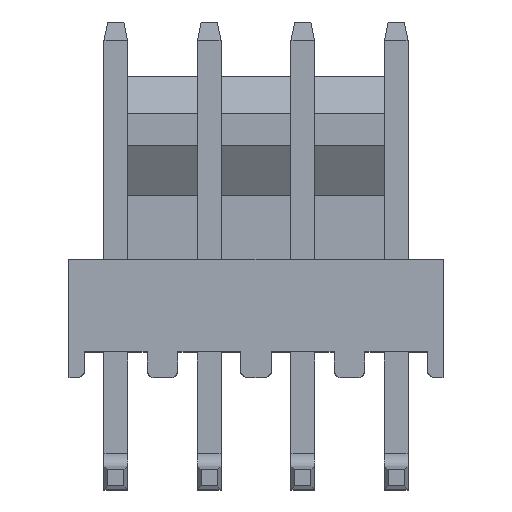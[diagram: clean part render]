
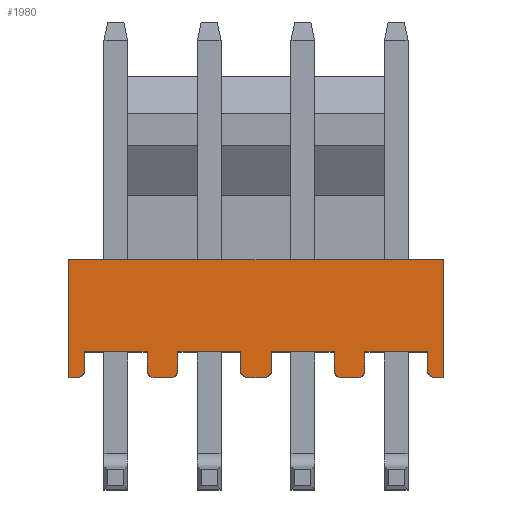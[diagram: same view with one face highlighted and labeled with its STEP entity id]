
A CAD part, top view. The second image highlights one B-rep face of the part: STEP entity #1980.
In plain terms, the highlighted planar face has unit normal (0, 0, 1).
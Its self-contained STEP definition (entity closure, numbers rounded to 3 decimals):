
#1=DIRECTION('',(0.,-1.,0.));
#2=VECTOR('',#1,3.2);
#3=CARTESIAN_POINT('',(-5.08,3.2,6.5));
#4=LINE('',#3,#2);
#269=CARTESIAN_POINT('',(2.76,0.2,6.5));
#270=DIRECTION('',(0.,0.,1.));
#271=DIRECTION('',(0.,-1.,0.));
#272=AXIS2_PLACEMENT_3D('',#269,#270,#271);
#274=CARTESIAN_POINT('',(2.32,0.2,6.5));
#275=DIRECTION('',(0.,0.,1.));
#276=DIRECTION('',(-1.,0.,0.));
#277=AXIS2_PLACEMENT_3D('',#274,#275,#276);
#279=DIRECTION('',(0.,1.,0.));
#280=VECTOR('',#279,0.5);
#281=CARTESIAN_POINT('',(2.12,0.2,6.5));
#282=LINE('',#281,#280);
#283=DIRECTION('',(-1.,0.,0.));
#284=VECTOR('',#283,1.7);
#285=CARTESIAN_POINT('',(2.12,0.7,6.5));
#286=LINE('',#285,#284);
#287=DIRECTION('',(0.,1.,0.));
#288=VECTOR('',#287,0.5);
#289=CARTESIAN_POINT('',(0.42,0.2,6.5));
#290=LINE('',#289,#288);
#291=CARTESIAN_POINT('',(0.22,0.2,6.5));
#292=DIRECTION('',(0.,0.,1.));
#293=DIRECTION('',(0.,-1.,0.));
#294=AXIS2_PLACEMENT_3D('',#291,#292,#293);
#296=CARTESIAN_POINT('',(-0.22,0.2,6.5));
#297=DIRECTION('',(0.,0.,1.));
#298=DIRECTION('',(-1.,0.,0.));
#299=AXIS2_PLACEMENT_3D('',#296,#297,#298);
#301=DIRECTION('',(0.,1.,0.));
#302=VECTOR('',#301,0.5);
#303=CARTESIAN_POINT('',(-0.42,0.2,6.5));
#304=LINE('',#303,#302);
#305=DIRECTION('',(-1.,0.,0.));
#306=VECTOR('',#305,1.7);
#307=CARTESIAN_POINT('',(-0.42,0.7,6.5));
#308=LINE('',#307,#306);
#309=DIRECTION('',(0.,1.,0.));
#310=VECTOR('',#309,0.5);
#311=CARTESIAN_POINT('',(-2.12,0.2,6.5));
#312=LINE('',#311,#310);
#313=CARTESIAN_POINT('',(-2.32,0.2,6.5));
#314=DIRECTION('',(0.,0.,1.));
#315=DIRECTION('',(0.,-1.,0.));
#316=AXIS2_PLACEMENT_3D('',#313,#314,#315);
#318=CARTESIAN_POINT('',(-2.76,0.2,6.5));
#319=DIRECTION('',(0.,0.,1.));
#320=DIRECTION('',(-1.,0.,0.));
#321=AXIS2_PLACEMENT_3D('',#318,#319,#320);
#323=DIRECTION('',(0.,1.,0.));
#324=VECTOR('',#323,0.5);
#325=CARTESIAN_POINT('',(-2.96,0.2,6.5));
#326=LINE('',#325,#324);
#327=DIRECTION('',(-1.,0.,0.));
#328=VECTOR('',#327,1.7);
#329=CARTESIAN_POINT('',(-2.96,0.7,6.5));
#330=LINE('',#329,#328);
#331=DIRECTION('',(0.,-1.,0.));
#332=VECTOR('',#331,0.5);
#333=CARTESIAN_POINT('',(-4.66,0.7,6.5));
#334=LINE('',#333,#332);
#335=CARTESIAN_POINT('',(-4.86,0.2,6.5));
#336=DIRECTION('',(0.,0.,1.));
#337=DIRECTION('',(0.,-1.,0.));
#338=AXIS2_PLACEMENT_3D('',#335,#336,#337);
#340=DIRECTION('',(1.,0.,0.));
#341=VECTOR('',#340,10.16);
#342=CARTESIAN_POINT('',(-5.08,3.2,6.5));
#343=LINE('',#342,#341);
#344=CARTESIAN_POINT('',(4.86,0.2,6.5));
#345=DIRECTION('',(0.,0.,1.));
#346=DIRECTION('',(-1.,0.,0.));
#347=AXIS2_PLACEMENT_3D('',#344,#345,#346);
#349=DIRECTION('',(0.,1.,0.));
#350=VECTOR('',#349,0.5);
#351=CARTESIAN_POINT('',(4.66,0.2,6.5));
#352=LINE('',#351,#350);
#353=DIRECTION('',(-1.,0.,0.));
#354=VECTOR('',#353,1.7);
#355=CARTESIAN_POINT('',(4.66,0.7,6.5));
#356=LINE('',#355,#354);
#357=DIRECTION('',(0.,1.,0.));
#358=VECTOR('',#357,0.5);
#359=CARTESIAN_POINT('',(2.96,0.2,6.5));
#360=LINE('',#359,#358);
#365=DIRECTION('',(1.,0.,0.));
#366=VECTOR('',#365,0.22);
#367=CARTESIAN_POINT('',(-5.08,0.,6.5));
#368=LINE('',#367,#366);
#377=DIRECTION('',(1.,0.,0.));
#378=VECTOR('',#377,0.44);
#379=CARTESIAN_POINT('',(-2.76,0.,6.5));
#380=LINE('',#379,#378);
#389=DIRECTION('',(1.,0.,0.));
#390=VECTOR('',#389,0.44);
#391=CARTESIAN_POINT('',(-0.22,0.,6.5));
#392=LINE('',#391,#390);
#401=DIRECTION('',(1.,0.,0.));
#402=VECTOR('',#401,0.44);
#403=CARTESIAN_POINT('',(2.32,0.,6.5));
#404=LINE('',#403,#402);
#409=DIRECTION('',(1.,0.,0.));
#410=VECTOR('',#409,0.22);
#411=CARTESIAN_POINT('',(4.86,0.,6.5));
#412=LINE('',#411,#410);
#1269=DIRECTION('',(0.,-1.,0.));
#1270=VECTOR('',#1269,3.2);
#1271=CARTESIAN_POINT('',(5.08,3.2,6.5));
#1272=LINE('',#1271,#1270);
#1285=CARTESIAN_POINT('',(-5.08,3.2,6.5));
#1286=CARTESIAN_POINT('',(-5.08,0.,6.5));
#1287=VERTEX_POINT('',#1285);
#1288=VERTEX_POINT('',#1286);
#1291=CARTESIAN_POINT('',(5.08,3.2,6.5));
#1292=CARTESIAN_POINT('',(5.08,0.,6.5));
#1293=VERTEX_POINT('',#1291);
#1294=VERTEX_POINT('',#1292);
#1361=CARTESIAN_POINT('',(-2.96,0.7,6.5));
#1362=CARTESIAN_POINT('',(-4.66,0.7,6.5));
#1363=VERTEX_POINT('',#1361);
#1364=VERTEX_POINT('',#1362);
#1369=CARTESIAN_POINT('',(-4.86,0.,6.5));
#1370=CARTESIAN_POINT('',(-4.66,0.2,6.5));
#1371=VERTEX_POINT('',#1369);
#1372=VERTEX_POINT('',#1370);
#1381=CARTESIAN_POINT('',(-2.96,0.2,6.5));
#1382=VERTEX_POINT('',#1381);
#1383=CARTESIAN_POINT('',(-2.76,0.,6.5));
#1384=VERTEX_POINT('',#1383);
#1417=CARTESIAN_POINT('',(-0.42,0.7,6.5));
#1419=VERTEX_POINT('',#1417);
#1421=CARTESIAN_POINT('',(-2.12,0.7,6.5));
#1423=VERTEX_POINT('',#1421);
#1481=CARTESIAN_POINT('',(2.12,0.7,6.5));
#1483=VERTEX_POINT('',#1481);
#1485=CARTESIAN_POINT('',(0.42,0.7,6.5));
#1487=VERTEX_POINT('',#1485);
#1545=CARTESIAN_POINT('',(4.66,0.7,6.5));
#1547=VERTEX_POINT('',#1545);
#1549=CARTESIAN_POINT('',(2.96,0.7,6.5));
#1551=VERTEX_POINT('',#1549);
#1609=CARTESIAN_POINT('',(-2.32,0.,6.5));
#1610=CARTESIAN_POINT('',(-2.12,0.2,6.5));
#1611=VERTEX_POINT('',#1609);
#1612=VERTEX_POINT('',#1610);
#1621=CARTESIAN_POINT('',(-0.42,0.2,6.5));
#1622=VERTEX_POINT('',#1621);
#1623=CARTESIAN_POINT('',(-0.22,0.,6.5));
#1624=VERTEX_POINT('',#1623);
#1633=CARTESIAN_POINT('',(0.22,0.,6.5));
#1634=CARTESIAN_POINT('',(0.42,0.2,6.5));
#1635=VERTEX_POINT('',#1633);
#1636=VERTEX_POINT('',#1634);
#1645=CARTESIAN_POINT('',(2.12,0.2,6.5));
#1646=VERTEX_POINT('',#1645);
#1647=CARTESIAN_POINT('',(2.32,0.,6.5));
#1648=VERTEX_POINT('',#1647);
#1657=CARTESIAN_POINT('',(2.76,0.,6.5));
#1658=CARTESIAN_POINT('',(2.96,0.2,6.5));
#1659=VERTEX_POINT('',#1657);
#1660=VERTEX_POINT('',#1658);
#1669=CARTESIAN_POINT('',(4.66,0.2,6.5));
#1670=VERTEX_POINT('',#1669);
#1671=CARTESIAN_POINT('',(4.86,0.,6.5));
#1672=VERTEX_POINT('',#1671);
#1920=CARTESIAN_POINT('',(-5.08,3.2,6.5));
#1921=DIRECTION('',(0.,0.,1.));
#1922=DIRECTION('',(0.,-1.,0.));
#1923=AXIS2_PLACEMENT_3D('',#1920,#1921,#1922);
#1924=PLANE('',#1923);
#1925=ORIENTED_EDGE('',*,*,#1910,.F.);
#1927=ORIENTED_EDGE('',*,*,#1926,.F.);
#1929=ORIENTED_EDGE('',*,*,#1928,.F.);
#1931=ORIENTED_EDGE('',*,*,#1930,.T.);
#1933=ORIENTED_EDGE('',*,*,#1932,.T.);
#1935=ORIENTED_EDGE('',*,*,#1934,.F.);
#1937=ORIENTED_EDGE('',*,*,#1936,.F.);
#1939=ORIENTED_EDGE('',*,*,#1938,.F.);
#1941=ORIENTED_EDGE('',*,*,#1940,.F.);
#1943=ORIENTED_EDGE('',*,*,#1942,.T.);
#1945=ORIENTED_EDGE('',*,*,#1944,.T.);
#1947=ORIENTED_EDGE('',*,*,#1946,.F.);
#1949=ORIENTED_EDGE('',*,*,#1948,.F.);
#1951=ORIENTED_EDGE('',*,*,#1950,.F.);
#1953=ORIENTED_EDGE('',*,*,#1952,.F.);
#1955=ORIENTED_EDGE('',*,*,#1954,.T.);
#1957=ORIENTED_EDGE('',*,*,#1956,.T.);
#1959=ORIENTED_EDGE('',*,*,#1958,.T.);
#1961=ORIENTED_EDGE('',*,*,#1960,.F.);
#1963=ORIENTED_EDGE('',*,*,#1962,.F.);
#1964=ORIENTED_EDGE('',*,*,#1688,.F.);
#1965=ORIENTED_EDGE('',*,*,#1710,.T.);
#1967=ORIENTED_EDGE('',*,*,#1966,.T.);
#1969=ORIENTED_EDGE('',*,*,#1968,.F.);
#1971=ORIENTED_EDGE('',*,*,#1970,.F.);
#1973=ORIENTED_EDGE('',*,*,#1972,.T.);
#1975=ORIENTED_EDGE('',*,*,#1974,.T.);
#1977=ORIENTED_EDGE('',*,*,#1976,.F.);
#1978=EDGE_LOOP('',(#1925,#1927,#1929,#1931,#1933,#1935,#1937,#1939,#1941,#1943,
#1945,#1947,#1949,#1951,#1953,#1955,#1957,#1959,#1961,#1963,#1964,#1965,#1967,
#1969,#1971,#1973,#1975,#1977));
#1979=FACE_OUTER_BOUND('',#1978,.F.);
#1980=ADVANCED_FACE('',(#1979),#1924,.T.);
#273=CIRCLE('',#272,0.2);
#278=CIRCLE('',#277,0.2);
#295=CIRCLE('',#294,0.2);
#300=CIRCLE('',#299,0.2);
#317=CIRCLE('',#316,0.2);
#322=CIRCLE('',#321,0.2);
#339=CIRCLE('',#338,0.2);
#348=CIRCLE('',#347,0.2);
#1688=EDGE_CURVE('',#1287,#1288,#4,.T.);
#1710=EDGE_CURVE('',#1287,#1293,#343,.T.);
#1910=EDGE_CURVE('',#1659,#1660,#273,.T.);
#1926=EDGE_CURVE('',#1648,#1659,#404,.T.);
#1928=EDGE_CURVE('',#1646,#1648,#278,.T.);
#1930=EDGE_CURVE('',#1646,#1483,#282,.T.);
#1932=EDGE_CURVE('',#1483,#1487,#286,.T.);
#1934=EDGE_CURVE('',#1636,#1487,#290,.T.);
#1936=EDGE_CURVE('',#1635,#1636,#295,.T.);
#1938=EDGE_CURVE('',#1624,#1635,#392,.T.);
#1940=EDGE_CURVE('',#1622,#1624,#300,.T.);
#1942=EDGE_CURVE('',#1622,#1419,#304,.T.);
#1944=EDGE_CURVE('',#1419,#1423,#308,.T.);
#1946=EDGE_CURVE('',#1612,#1423,#312,.T.);
#1948=EDGE_CURVE('',#1611,#1612,#317,.T.);
#1950=EDGE_CURVE('',#1384,#1611,#380,.T.);
#1952=EDGE_CURVE('',#1382,#1384,#322,.T.);
#1954=EDGE_CURVE('',#1382,#1363,#326,.T.);
#1956=EDGE_CURVE('',#1363,#1364,#330,.T.);
#1958=EDGE_CURVE('',#1364,#1372,#334,.T.);
#1960=EDGE_CURVE('',#1371,#1372,#339,.T.);
#1962=EDGE_CURVE('',#1288,#1371,#368,.T.);
#1966=EDGE_CURVE('',#1293,#1294,#1272,.T.);
#1968=EDGE_CURVE('',#1672,#1294,#412,.T.);
#1970=EDGE_CURVE('',#1670,#1672,#348,.T.);
#1972=EDGE_CURVE('',#1670,#1547,#352,.T.);
#1974=EDGE_CURVE('',#1547,#1551,#356,.T.);
#1976=EDGE_CURVE('',#1660,#1551,#360,.T.);
